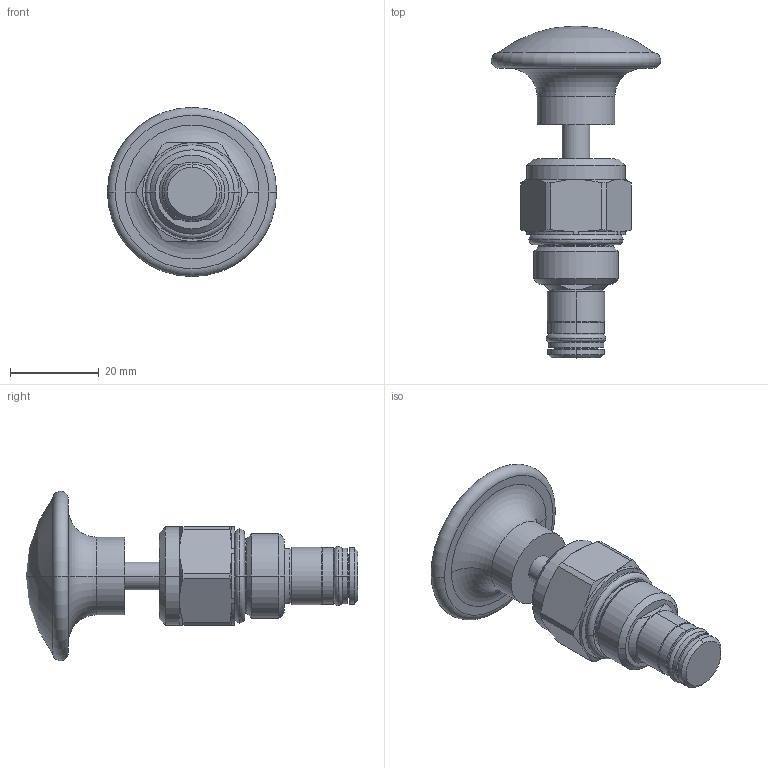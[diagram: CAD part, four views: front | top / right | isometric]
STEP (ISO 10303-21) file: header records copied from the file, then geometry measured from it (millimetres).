
FILE_DESCRIPTION((''),'2;1');
FILE_NAME('5270800_SW0002','2009-02-04T',('jcs'),(''),'PRO/ENGINEER BY PARAMETRIC TECHNOLOGY CORPORATION, 2008010','PRO/ENGINEER BY PARAMETRIC TECHNOLOGY CORPORATION, 2008010','');
FILE_SCHEMA(('CONFIG_CONTROL_DESIGN'));
Length unit declared in the file: inch
Products named in the file (1): 5270800_SW0002
Bounding box: 38.1 x 74.73 x 38.1 mm (x, y, z)
Volume: 22880.1 mm3; surface area: 7491.2 mm2
Topology: 4 solids, 4 shells, 107 faces, 238 edges, 139 vertices
Faces by surface type: cylinder 36, cone 24, plane 17, revolution 16, torus 12, sphere 2
Entity records: 3630 total; most frequent: CARTESIAN_POINT 1206, DIRECTION 522, ORIENTED_EDGE 472, EDGE_CURVE 236, AXIS2_PLACEMENT_3D 217, VERTEX_POINT 139, CIRCLE 126, EDGE_LOOP 115
